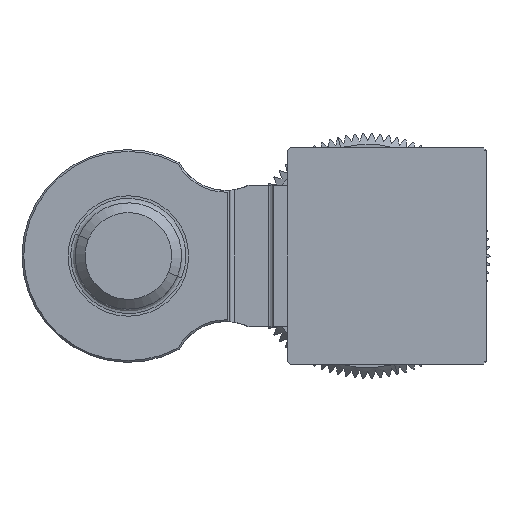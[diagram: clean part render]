
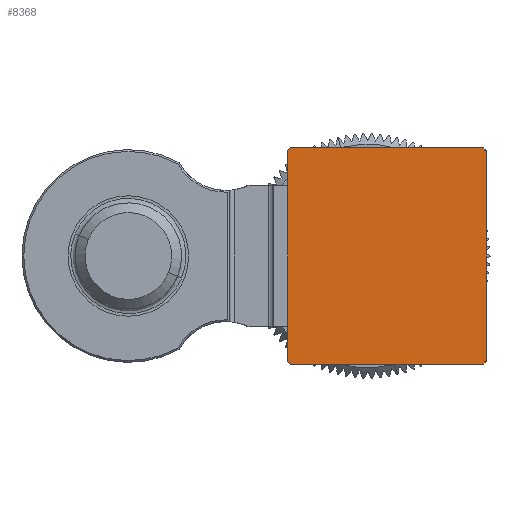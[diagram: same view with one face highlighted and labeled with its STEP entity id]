
A CAD part, left-side view. The second image highlights one B-rep face of the part: STEP entity #8368.
In plain terms, the highlighted planar face has unit normal (-1, 0, 0).
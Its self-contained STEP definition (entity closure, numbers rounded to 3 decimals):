
#522 = DIRECTION ( 'NONE',  ( 0., 1., 0. ) ) ;
#566 = EDGE_CURVE ( 'NONE', #3591, #1016, #4304, .T. ) ;
#730 = DIRECTION ( 'NONE',  ( 0., 0., 1. ) ) ;
#926 = ORIENTED_EDGE ( 'NONE', *, *, #14988, .F. ) ;
#1016 = VERTEX_POINT ( 'NONE', #9569 ) ;
#1195 = VERTEX_POINT ( 'NONE', #11270 ) ;
#1614 = CIRCLE ( 'NONE', #4405, 0.15 ) ;
#1679 = EDGE_CURVE ( 'NONE', #1195, #3591, #12478, .T. ) ;
#1744 = VERTEX_POINT ( 'NONE', #14701 ) ;
#1797 = EDGE_LOOP ( 'NONE', ( #3107, #12843, #14359, #8061, #10304, #14246, #926, #1810 ) ) ;
#1810 = ORIENTED_EDGE ( 'NONE', *, *, #10218, .T. ) ;
#2167 = CARTESIAN_POINT ( 'NONE',  ( 0., -11.2, -12.05 ) ) ;
#2286 = CARTESIAN_POINT ( 'NONE',  ( 0., -11.049, -12.2 ) ) ;
#2360 = DIRECTION ( 'NONE',  ( -1., 0., 0. ) ) ;
#2614 = CARTESIAN_POINT ( 'NONE',  ( 0., -5.6, 0. ) ) ;
#3107 = ORIENTED_EDGE ( 'NONE', *, *, #9065, .T. ) ;
#3175 = CARTESIAN_POINT ( 'NONE',  ( 0., -0.15, -0.15 ) ) ;
#3518 = CARTESIAN_POINT ( 'NONE',  ( 0., -11.138, -12.2 ) ) ;
#3565 = CARTESIAN_POINT ( 'NONE',  ( 0., -0.15, -12.05 ) ) ;
#3591 = VERTEX_POINT ( 'NONE', #11001 ) ;
#3669 = EDGE_CURVE ( 'NONE', #8961, #1744, #12926, .T. ) ;
#4061 = VECTOR ( 'NONE', #522, 1000. ) ;
#4253 = CARTESIAN_POINT ( 'NONE',  ( 0., -11.2, 0. ) ) ;
#4304 = LINE ( 'NONE', #14726, #5670 ) ;
#4405 = AXIS2_PLACEMENT_3D ( 'NONE', #3565, #2360, #9971 ) ;
#5670 = VECTOR ( 'NONE', #9748, 1000. ) ;
#5710 =( BOUNDED_CURVE ( )  B_SPLINE_CURVE ( 3, ( #2286, #3518, #8286, #2167 ),
 .UNSPECIFIED., .F., .F. ) 
 B_SPLINE_CURVE_WITH_KNOTS ( ( 4, 4 ),
 ( 4.712, 6.283 ),
 .UNSPECIFIED. ) 
 CURVE ( )  GEOMETRIC_REPRESENTATION_ITEM ( )  RATIONAL_B_SPLINE_CURVE ( ( 1., 0.805, 0.805, 1. ) ) 
 REPRESENTATION_ITEM ( '' )  );
#5787 = LINE ( 'NONE', #6559, #4061 ) ;
#6080 = VERTEX_POINT ( 'NONE', #6255 ) ;
#6255 = CARTESIAN_POINT ( 'NONE',  ( 0., -11.049, 0. ) ) ;
#6559 = CARTESIAN_POINT ( 'NONE',  ( 0., -5.6, 0. ) ) ;
#6908 =( BOUNDED_CURVE ( )  B_SPLINE_CURVE ( 3, ( #15863, #8306, #11986, #14484 ),
 .UNSPECIFIED., .F., .F. ) 
 B_SPLINE_CURVE_WITH_KNOTS ( ( 4, 4 ),
 ( 3.142, 4.712 ),
 .UNSPECIFIED. ) 
 CURVE ( )  GEOMETRIC_REPRESENTATION_ITEM ( )  RATIONAL_B_SPLINE_CURVE ( ( 1., 0.805, 0.805, 1. ) ) 
 REPRESENTATION_ITEM ( '' )  );
#7489 = PLANE ( 'NONE',  #10813 ) ;
#7932 = FACE_OUTER_BOUND ( 'NONE', #1797, .T. ) ;
#8061 = ORIENTED_EDGE ( 'NONE', *, *, #15154, .T. ) ;
#8117 = VERTEX_POINT ( 'NONE', #15339 ) ;
#8286 = CARTESIAN_POINT ( 'NONE',  ( 0., -11.2, -12.138 ) ) ;
#8306 = CARTESIAN_POINT ( 'NONE',  ( 0., -11.2, -0.062 ) ) ;
#8368 = ADVANCED_FACE ( 'NONE', ( #7932 ), #7489, .T. ) ;
#8418 = CARTESIAN_POINT ( 'NONE',  ( 0., -5.6, -12.2 ) ) ;
#8663 = CARTESIAN_POINT ( 'NONE',  ( 0., -0.15, -12.2 ) ) ;
#8934 = AXIS2_PLACEMENT_3D ( 'NONE', #3175, #11862, #730 ) ;
#8961 = VERTEX_POINT ( 'NONE', #8663 ) ;
#9065 = EDGE_CURVE ( 'NONE', #6080, #1195, #5787, .T. ) ;
#9175 = VECTOR ( 'NONE', #15608, 1000. ) ;
#9569 = CARTESIAN_POINT ( 'NONE',  ( 0., 0., -12.05 ) ) ;
#9675 = DIRECTION ( 'NONE',  ( 0., -1., 0. ) ) ;
#9748 = DIRECTION ( 'NONE',  ( 0., 0., -1. ) ) ;
#9831 = DIRECTION ( 'NONE',  ( 0., 0., 1. ) ) ;
#9971 = DIRECTION ( 'NONE',  ( 0., 0., 1. ) ) ;
#10218 = EDGE_CURVE ( 'NONE', #8117, #6080, #6908, .T. ) ;
#10304 = ORIENTED_EDGE ( 'NONE', *, *, #3669, .T. ) ;
#10790 = EDGE_CURVE ( 'NONE', #1744, #12924, #5710, .T. ) ;
#10813 = AXIS2_PLACEMENT_3D ( 'NONE', #2614, #12354, #9831 ) ;
#11001 = CARTESIAN_POINT ( 'NONE',  ( 0., 0., -0.15 ) ) ;
#11270 = CARTESIAN_POINT ( 'NONE',  ( 0., -0.15, 0. ) ) ;
#11862 = DIRECTION ( 'NONE',  ( -1., 0., 0. ) ) ;
#11986 = CARTESIAN_POINT ( 'NONE',  ( 0., -11.138, 0. ) ) ;
#12335 = LINE ( 'NONE', #4253, #9175 ) ;
#12354 = DIRECTION ( 'NONE',  ( -1., 0., 0. ) ) ;
#12478 = CIRCLE ( 'NONE', #8934, 0.15 ) ;
#12534 = CARTESIAN_POINT ( 'NONE',  ( 0., -11.2, -12.05 ) ) ;
#12539 = VECTOR ( 'NONE', #9675, 1000. ) ;
#12843 = ORIENTED_EDGE ( 'NONE', *, *, #1679, .T. ) ;
#12924 = VERTEX_POINT ( 'NONE', #12534 ) ;
#12926 = LINE ( 'NONE', #8418, #12539 ) ;
#14246 = ORIENTED_EDGE ( 'NONE', *, *, #10790, .T. ) ;
#14359 = ORIENTED_EDGE ( 'NONE', *, *, #566, .T. ) ;
#14484 = CARTESIAN_POINT ( 'NONE',  ( 0., -11.049, 0. ) ) ;
#14701 = CARTESIAN_POINT ( 'NONE',  ( 0., -11.049, -12.2 ) ) ;
#14726 = CARTESIAN_POINT ( 'NONE',  ( 0., 0., 0. ) ) ;
#14988 = EDGE_CURVE ( 'NONE', #8117, #12924, #12335, .T. ) ;
#15154 = EDGE_CURVE ( 'NONE', #1016, #8961, #1614, .T. ) ;
#15339 = CARTESIAN_POINT ( 'NONE',  ( 0., -11.2, -0.15 ) ) ;
#15608 = DIRECTION ( 'NONE',  ( 0., 0., -1. ) ) ;
#15863 = CARTESIAN_POINT ( 'NONE',  ( 0., -11.2, -0.15 ) ) ;
